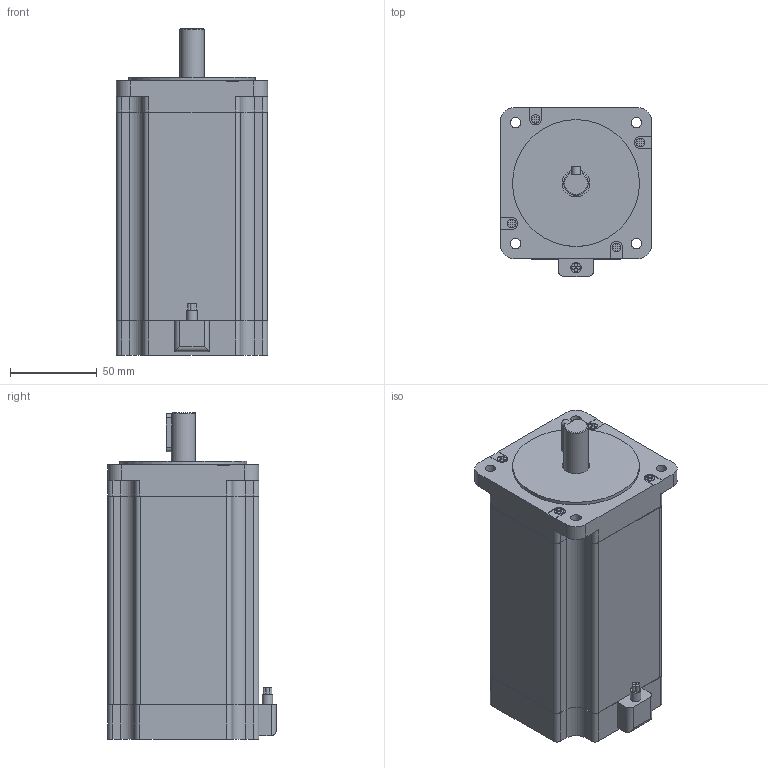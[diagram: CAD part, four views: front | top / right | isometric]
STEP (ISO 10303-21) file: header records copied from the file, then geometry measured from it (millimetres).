
FILE_DESCRIPTION(/* description */ (''),/* implementation_level */ '2;1');
FILE_NAME(/* name */ 'STC-86E45-03158.stp',/* time_stamp */ '2018-08-17T09:26:17+08:00',/* author */ (''),/* organization */ (''),/* preprocessor_version */ 'ST-DEVELOPER v11',/* originating_system */ 'SIEMENS UGS NX 6.0',/* authorisation */ '');
FILE_SCHEMA (('CONFIG_CONTROL_DESIGN'));
Length unit declared in the file: millimetre
Products named in the file (1): STC-86E45-03158
Bounding box: 87 x 97 x 188 mm (x, y, z)
Volume: 985 mm3; surface area: 70665.6 mm2
Topology: 2 solids, 3 shells, 202 faces, 542 edges, 363 vertices
Faces by surface type: plane 134, cylinder 67, torus 1
Full cylindrical faces by diameter (mm): 2 x4, 5 x4, 6 x5, 14 x2, 16 x1, 73.025 x1
Entity records: 6294 total; most frequent: CARTESIAN_POINT 1136, DIRECTION 1048, ORIENTED_EDGE 1028, EDGE_CURVE 514, LINE 378, VECTOR 378, VERTEX_POINT 353, AXIS2_PLACEMENT_3D 335
